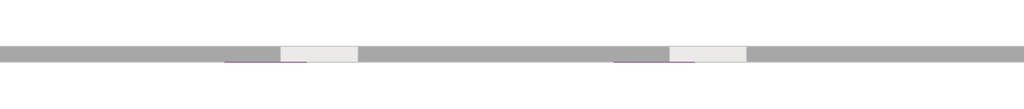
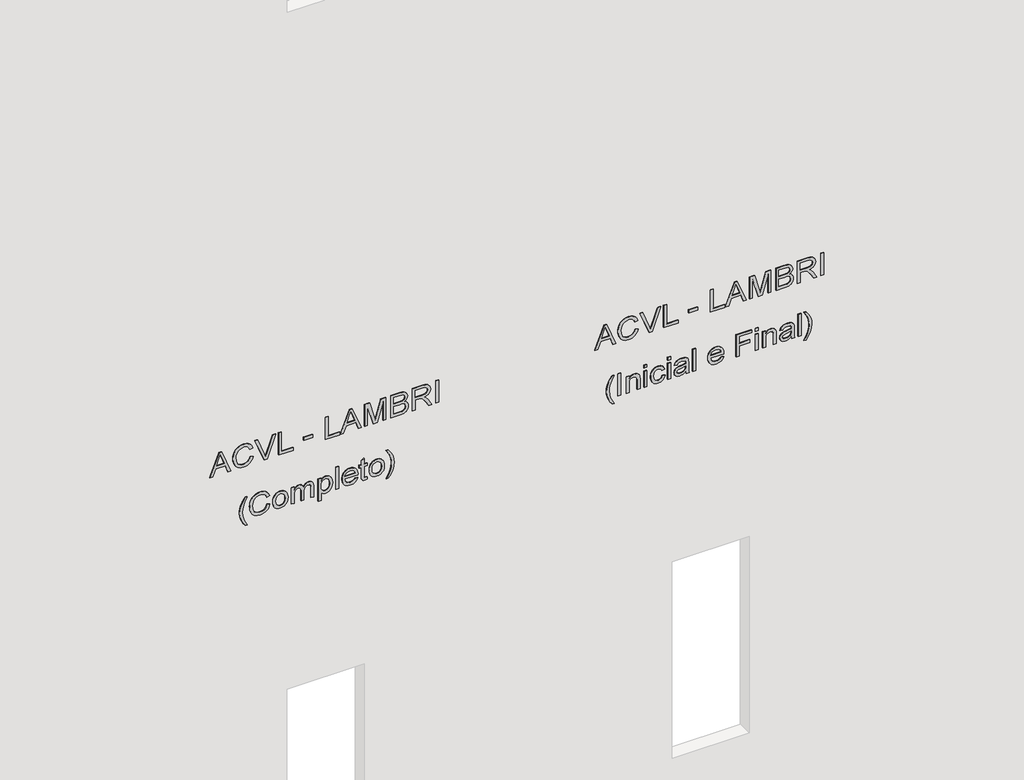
# One storey, part 2 of 11: 2 proxies.
"""IFC4 building model written with IfcOpenShell, lengths in millimetres."""

from ifc_helpers import new_model, si_unit, frame, origin, place, context, project, spatial, polyline, outline, extrude, element, save

model = new_model("IFC4")

# Units and contexts
model_context = context("Model", 3, world=origin())
ifc_project = project(units=[si_unit("LENGTHUNIT", "METRE", prefix="MILLI")], contexts=[model_context])

# Site, building, storey
site = spatial("IfcSite", under=ifc_project)
building = spatial("IfcBuilding", under=site)
storey = spatial("IfcBuildingStorey", under=building, Name="01 - Marelli - Planta Baixa - Painéis Lambri", Elevation=0.0)

# Proxies
placement = place(None, origin())
element("IfcBuildingElementProxy", 1, Name="300mm Arial", ObjectType="300mm Arial", at=placement, inside=storey, context=model_context, shape_type="SweptSolid", body=[
    extrude(outline(polyline([(5965.9244535, -2633.9601929), (5965.9244535, -2594.155361), (6060.1022443, -2559.7216063), (6060.1022443, -2435.5982211), (5965.9244535, -2401.0908899), (5965.9244535, -2361.2860581), (6267.293384, -2481.5834705), (6267.293384, -2513.6627805), (5965.9244535, -2633.9601929)]), holes=[polyline([(6097.7733606, -2545.8892432), (6178.3395176, -2516.3851072), (6229.6222677, -2497.6231255), (6171.8647944, -2476.506699), (6097.7733606, -2449.3570077), (6097.7733606, -2545.8892432)])]), frame((0.0, 8778.3159498, 0.0), z_axis=(0.0, 1.0, 0.0), x_axis=(0.0, 0.0, 1.0)), (0.0, 0.0, 1.0), 10.0),
    extrude(outline(polyline([(6073.0516905, -2109.1397386), (6040.7884396, -2121.3258297), (6017.5750857, -2141.108684), (6003.5587816, -2167.3110791), (5998.8866803, -2198.7557926), (6002.3171799, -2225.7307399), (6012.6086787, -2250.7375185), (6029.8347531, -2271.5964276), (6054.0689796, -2286.1277665), (6084.1617268, -2294.6534317), (6118.9633635, -2297.4953201), (6147.3822477, -2295.0948901), (6174.9550032, -2287.8936), (6199.3455795, -2274.7694099), (6218.2179258, -2254.6002795), (6230.3028494, -2228.0208053), (6234.3311572, -2195.6655838), (6230.6983225, -2167.5961876), (6219.7998184, -2144.7507157), (6200.9550632, -2126.9084389), (6173.4834752, -2113.8486281), (6182.4597959, -2076.1775118), (6220.278065, -2092.814975), (6235.6003501, -2104.6170893), (6248.5314022, -2118.7414586), (6258.7999084, -2134.9213686), (6266.1345557, -2152.8901049), (6272.0022735, -2194.1940559), (6267.4681279, -2232.0491132), (6253.8656912, -2266.5932325), (6231.526057, -2295.7202895), (6200.7803193, -2317.3241596), (6162.8332915, -2330.7058672), (6118.8897871, -2335.1664364), (6077.2271512, -2331.220902), (6038.3236302, -2319.3842988), (6005.2326447, -2299.9969177), (5981.0076153, -2273.3990494), (5966.1635768, -2238.6985802), (5961.215564, -2195.0033962), (5962.8503396, -2172.5809886), (5967.7546665, -2151.9612028), (5975.9285445, -2133.1440388), (5987.3719739, -2116.1294965), (6001.9286046, -2101.2532683), (6019.4420868, -2088.8510465), (6039.9124206, -2078.9228312), (6063.3396059, -2071.4686223), (6073.0516905, -2109.1397386)])), frame((0.0, 8778.3159498, 0.0), z_axis=(0.0, 1.0, 0.0), x_axis=(0.0, 0.0, 1.0)), (0.0, 0.0, 1.0), 10.0),
    extrude(outline(polyline([(5965.9244535, -1930.6433945), (5965.9244535, -1891.7214794), (6267.293384, -1776.8687205), (6267.293384, -1817.1885872), (6050.1694304, -1897.6811677), (6001.2411251, -1913.7208227), (6050.1694304, -1929.9812069), (6267.293384, -2010.2530583), (6267.293384, -2050.5729249), (5965.9244535, -1930.6433945)])), frame((0.0, 8778.3159498, 0.0), z_axis=(0.0, 1.0, 0.0), x_axis=(0.0, 0.0, 1.0)), (0.0, 0.0, 1.0), 10.0),
    extrude(outline(polyline([(5965.9244535, -1741.8463546), (5965.9244535, -1553.4907731), (6003.5955698, -1553.4907731), (6003.5955698, -1704.1752383), (6267.293384, -1704.1752383), (6267.293384, -1741.8463546), (5965.9244535, -1741.8463546)])), frame((0.0, 8778.3159498, 0.0), z_axis=(0.0, 1.0, 0.0), x_axis=(0.0, 0.0, 1.0)), (0.0, 0.0, 1.0), 10.0),
    extrude(outline(polyline([(-1299.210738, 8778.3159498), (-1416.9329765, 8778.3159498), (-1416.9329765, 8788.3159498), (-1299.210738, 8788.3159498), (-1299.210738, 8778.3159498)])), frame((0.0, 0.0, 6055.3933548), z_axis=(0.0, 0.0, 1.0), x_axis=(1.0, 0.0, 0.0)), (0.0, 0.0, 1.0), 37.6711163),
    extrude(outline(polyline([(5965.9244535, -1134.3996042), (5965.9244535, -946.0440226), (6003.5955698, -946.0440226), (6003.5955698, -1096.7284878), (6267.293384, -1096.7284878), (6267.293384, -1134.3996042), (5965.9244535, -1134.3996042)])), frame((0.0, 8778.3159498, 0.0), z_axis=(0.0, 1.0, 0.0), x_axis=(0.0, 0.0, 1.0)), (0.0, 0.0, 1.0), 10.0),
    extrude(outline(polyline([(5965.9244535, -938.7599591), (5965.9244535, -898.9551272), (6060.1022443, -864.5213725), (6060.1022443, -740.3979873), (5965.9244535, -705.8906562), (5965.9244535, -666.0858243), (6267.293384, -786.3832367), (6267.293384, -818.4625467), (5965.9244535, -938.7599591)]), holes=[polyline([(6097.7733606, -850.6890095), (6178.3395176, -821.1848735), (6229.6222677, -802.4228917), (6171.8647944, -781.3064652), (6097.7733606, -754.1567739), (6097.7733606, -850.6890095)])]), frame((0.0, 8778.3159498, 0.0), z_axis=(0.0, 1.0, 0.0), x_axis=(0.0, 0.0, 1.0)), (0.0, 0.0, 1.0), 10.0),
    extrude(outline(polyline([(5965.9244535, -625.839534), (5965.9244535, -588.1684177), (6229.6222677, -588.1684177), (5965.9244535, -512.4583031), (5965.9244535, -461.3962822), (6229.6222677, -385.6861676), (5965.9244535, -385.6861676), (5965.9244535, -348.0150513), (6267.293384, -348.0150513), (6267.293384, -412.8358588), (6058.5571399, -473.4628116), (6010.5117514, -486.9272926), (6054.87832, -499.3617041), (6267.293384, -561.0187265), (6267.293384, -625.839534), (5965.9244535, -625.839534)])), frame((0.0, 8778.3159498, 0.0), z_axis=(0.0, 1.0, 0.0), x_axis=(0.0, 0.0, 1.0)), (0.0, 0.0, 1.0), 10.0),
    extrude(outline(polyline([(5965.9244535, -282.0905977), (5965.9244535, -167.9736028), (5971.1115897, -119.6706969), (5977.5311305, -101.635282), (5986.4154807, -86.8924111), (5998.6843452, -74.8534728), (6015.2574291, -64.929856), (6034.7459778, -58.2803889), (6055.7612368, -56.0638999), (6080.9795475, -59.3104585), (6102.6294029, -69.0501343), (6119.5887629, -84.8230749), (6130.7355874, -106.1694276), (6142.4802201, -88.2995597), (6157.407032, -75.5984338), (6174.4675596, -68.0108677), (6192.613339, -65.481679), (6212.3318139, -68.4891143), (6231.1673721, -77.5114202), (6247.1794359, -91.8404239), (6258.4274279, -110.7679526), (6265.076895, -135.4620315), (6267.293384, -167.090686), (6267.293384, -282.0905977), (5965.9244535, -282.0905977)]), holes=[polyline([(6144.862256, -244.4194814), (6229.6222677, -244.4194814), (6229.6222677, -180.8494727), (6225.6859303, -132.4362021), (6220.084927, -119.9466084), (6211.1545915, -110.7311644), (6199.7134615, -105.0473875), (6186.5800742, -103.1527953), (6173.0512139, -105.1853433), (6162.0423452, -111.2829874), (6153.6822268, -121.3905452), (6148.0996175, -135.4528345), (6144.862256, -175.6255483), (6144.862256, -244.4194814)]), polyline([(6003.5955698, -244.4194814), (6107.1911397, -244.4194814), (6107.1911397, -170.8430824), (6105.9311439, -144.0152879), (6102.1511563, -124.30601), (6095.262566, -110.3908735), (6084.6767616, -100.9455033), (6071.1387042, -95.537638), (6055.3933548, -93.7350162), (6041.8369032, -95.2709235), (6030.0094971, -99.8786455), (6013.2708663, -115.5504185), (6005.0670978, -139.2052308), (6003.5955698, -167.1642624), (6003.5955698, -244.4194814)])]), frame((0.0, 8778.3159498, 0.0), z_axis=(0.0, 1.0, 0.0), x_axis=(0.0, 0.0, 1.0)), (0.0, 0.0, 1.0), 10.0),
    extrude(outline(polyline([(5965.9244535, -4.266115), (5965.9244535, 33.4050013), (6097.7733606, 33.4050013), (6097.7733606, 78.8752159), (6096.4489854, 100.7274065), (6089.2752865, 118.6432596), (6069.7407526, 138.5456756), (6028.3908163, 166.8725892), (5965.9244535, 206.0888099), (5965.9244535, 249.8667673), (6047.5942565, 199.6140868), (6086.3690188, 169.0798812), (6102.4822501, 147.669149), (6112.4702463, 184.7792453), (6120.4854753, 199.161132), (6130.5148582, 210.7609112), (6155.1261637, 226.0739993), (6184.8142407, 231.1783619), (6208.6805851, 228.0973502), (6230.3948199, 218.8543151), (6247.9060028, 204.451735), (6259.1631919, 185.8920883), (6265.260836, 160.4990336), (6267.293384, 125.5962293), (6267.293384, -4.266115), (5965.9244535, -4.266115)]), holes=[polyline([(6135.4444769, 33.4050013), (6229.6222677, 33.4050013), (6229.6222677, 127.2149101), (6226.366512, 157.0225488), (6216.599245, 177.5779552), (6201.7919947, 189.524923), (6183.4162891, 193.5072456), (6170.1081579, 191.4195153), (6157.8484904, 185.1563243), (6147.7133415, 174.8740226), (6140.7787658, 160.7289599), (6136.7780491, 141.939387), (6135.4444769, 117.7235546), (6135.4444769, 33.4050013)])]), frame((0.0, 8778.3159498, 0.0), z_axis=(0.0, 1.0, 0.0), x_axis=(0.0, 0.0, 1.0)), (0.0, 0.0, 1.0), 10.0),
    extrude(outline(polyline([(339.4828213, 8778.3159498), (301.811705, 8778.3159498), (301.811705, 8788.3159498), (339.4828213, 8788.3159498), (339.4828213, 8778.3159498)])), frame((0.0, 0.0, 5965.9244535), z_axis=(0.0, 0.0, 1.0), x_axis=(1.0, 0.0, 0.0)), (0.0, 0.0, 1.0), 301.3689304),
    extrude(outline(polyline([(5149.3155348, -2175.0641921), (5149.3155348, -2146.8108549), (5197.5540614, -2175.6528033), (5245.8109821, -2196.254195), (5294.0862969, -2208.6150301), (5342.3800058, -2212.7353084), (5380.2534572, -2210.3624695), (5417.9429677, -2203.2439529), (5475.7740173, -2182.05395), (5535.4444769, -2146.8108549), (5535.4444769, -2175.0641921), (5484.934279, -2209.7554643), (5434.2033518, -2234.0724641), (5389.4137189, -2246.3229346), (5342.600735, -2250.4064247), (5289.2210575, -2244.9433771), (5237.68079, -2228.5542342), (5190.2791949, -2204.2556284), (5149.3155348, -2175.0641921)])), frame((0.0, 8778.3159498, 0.0), z_axis=(0.0, 1.0, 0.0), x_axis=(0.0, 0.0, 1.0)), (0.0, 0.0, 1.0), 10.0),
    extrude(outline(polyline([(5341.2027835, -1892.5308198), (5308.9395325, -1904.7169109), (5285.7261786, -1924.4997652), (5271.7098746, -1950.7021603), (5267.0377732, -1982.1468738), (5270.4682728, -2009.1218211), (5280.7597717, -2034.1285998), (5297.9858461, -2054.9875089), (5322.2200725, -2069.5188477), (5352.3128197, -2078.0445129), (5387.1144565, -2080.8864013), (5415.5333406, -2078.4859713), (5443.1060961, -2071.2846813), (5467.4966724, -2058.1604911), (5486.3690188, -2037.9913607), (5498.4539423, -2011.4118866), (5502.4822501, -1979.0566651), (5498.8494154, -1950.9872688), (5487.9509113, -1928.1417969), (5469.1061561, -1910.2995202), (5441.6345681, -1897.2397094), (5450.6108888, -1859.568593), (5488.4291579, -1876.2060563), (5503.751443, -1888.0081705), (5516.6824952, -1902.1325399), (5526.9510013, -1918.3124499), (5534.2856486, -1936.2811861), (5540.1533665, -1977.5851371), (5535.6192209, -2015.4401944), (5522.0167841, -2049.9843138), (5499.6771499, -2079.1113707), (5468.9314122, -2100.7152409), (5430.9843844, -2114.0969485), (5387.0408801, -2118.5575177), (5345.3782441, -2114.6119833), (5306.4747231, -2102.7753801), (5273.3837376, -2083.3879989), (5249.1587083, -2056.7901307), (5234.3146698, -2022.0896615), (5229.3666569, -1978.3944775), (5231.0014325, -1955.9720699), (5235.9057594, -1935.3522841), (5244.0796375, -1916.53512), (5255.5230668, -1899.5205777), (5270.0796975, -1884.6443495), (5287.5931797, -1872.2421278), (5308.0635135, -1862.3139124), (5331.4906988, -1854.8597035), (5341.2027835, -1892.5308198)])), frame((0.0, 8778.3159498, 0.0), z_axis=(0.0, 1.0, 0.0), x_axis=(0.0, 0.0, 1.0)), (0.0, 0.0, 1.0), 10.0),
    extrude(outline(polyline([(5344.7344506, -1817.1885872), (5318.4124939, -1815.4802352), (5295.3646869, -1810.3551791), (5275.5910296, -1801.8134191), (5259.0915221, -1789.854955), (5246.0868936, -1775.1281788), (5236.7978732, -1758.2814827), (5231.224461, -1739.3148666), (5229.3666569, -1718.2283305), (5232.7419742, -1691.6396593), (5242.8679261, -1667.2030978), (5259.1007192, -1646.6292972), (5280.7965599, -1631.6289088), (5309.767267, -1622.4686472), (5347.8246594, -1619.4152266), (5372.7049786, -1621.1419727), (5394.7388108, -1626.3222111), (5413.9261561, -1634.9559416), (5430.2670145, -1647.0431644), (5443.3199275, -1661.852714), (5452.6434368, -1678.6534249), (5458.2375424, -1697.445297), (5460.1022443, -1718.2283305), (5458.5709355, -1737.0546916), (5453.9770091, -1754.3911306), (5446.3204651, -1770.2376476), (5435.6013034, -1784.5942424), (5418.830483, -1798.8542683), (5398.095734, -1809.040001), (5373.3970566, -1815.1514407), (5344.7344506, -1817.1885872)]), holes=[polyline([(5344.808027, -1779.5174709), (5378.8830968, -1775.1580693), (5403.1173232, -1762.0798643), (5417.6026768, -1742.3981776), (5422.431128, -1718.2283305), (5417.5842827, -1694.3068038), (5403.0437468, -1674.6343141), (5379.0854319, -1661.4733357), (5345.9852494, -1657.0863429), (5311.1468245, -1661.4457445), (5286.535519, -1674.5239495), (5271.9122097, -1694.168848), (5267.0377732, -1718.2283305), (5271.8846185, -1742.3981776), (5286.4251544, -1762.0798643), (5310.7145631, -1775.1580693), (5344.808027, -1779.5174709)])]), frame((0.0, 8778.3159498, 0.0), z_axis=(0.0, 1.0, 0.0), x_axis=(0.0, 0.0, 1.0)), (0.0, 0.0, 1.0), 10.0),
    extrude(outline(polyline([(5234.0755465, -1577.0352208), (5234.0755465, -1539.3641044), (5345.6909438, -1539.3641044), (5371.6082304, -1537.9293647), (5390.6461236, -1533.6251453), (5404.368122, -1526.1203526), (5414.3377241, -1515.0838928), (5420.407777, -1501.7113822), (5422.431128, -1487.1984375), (5419.3961015, -1470.1195159), (5410.2910222, -1458.6140065), (5395.0974958, -1452.074904), (5373.7971282, -1449.8952032), (5234.0755465, -1449.8952032), (5234.0755465, -1412.2240869), (5359.008272, -1412.2240869), (5387.7214617, -1408.5360699), (5407.3479662, -1397.4720189), (5418.6603375, -1380.8345557), (5422.431128, -1360.426302), (5420.9596, -1348.8656103), (5416.5450161, -1338.9052053), (5409.7300021, -1331.1612893), (5401.0571841, -1326.2500646), (5369.6032735, -1322.7551857), (5234.0755465, -1322.7551857), (5234.0755465, -1285.0840694), (5385.7900813, -1285.0840694), (5418.7615051, -1289.3974858), (5441.8920855, -1302.337735), (5455.5497046, -1323.2794175), (5460.1022443, -1351.5971341), (5457.366122, -1371.122471), (5449.1577549, -1388.7164274), (5435.4771432, -1404.3790034), (5416.3242869, -1418.1101988), (5434.7643719, -1426.3139673), (5448.5875379, -1438.8587434), (5457.2235677, -1455.6525564), (5460.1022443, -1476.6034361), (5457.27875, -1496.1563641), (5448.808267, -1513.465212), (5435.702471, -1528.033339), (5418.9730372, -1539.3641044), (5455.3933548, -1539.3641044), (5455.3933548, -1577.0352208), (5234.0755465, -1577.0352208)])), frame((0.0, 8778.3159498, 0.0), z_axis=(0.0, 1.0, 0.0), x_axis=(0.0, 0.0, 1.0)), (0.0, 0.0, 1.0), 10.0),
    extrude(outline(polyline([(5149.3155348, -1228.5773949), (5149.3155348, -1190.9062786), (5263.5061061, -1190.9062786), (5249.9956398, -1180.2652919), (5239.0419534, -1167.0307371), (5231.785481, -1151.5704963), (5229.3666569, -1134.2524514), (5232.9810975, -1109.8342839), (5243.8244193, -1086.611733), (5261.4459669, -1066.6725288), (5285.3950848, -1052.1044018), (5314.2094421, -1043.1924605), (5346.4267078, -1040.2218134), (5376.7217901, -1042.8521697), (5404.4784866, -1050.7432385), (5427.9861461, -1063.8030493), (5445.5341173, -1081.9396316), (5456.4602125, -1104.2148865), (5460.1022443, -1129.6907146), (5457.4994792, -1148.8205784), (5449.6911838, -1164.8602334), (5436.6773583, -1178.61902), (5418.4580024, -1190.9062786), (5455.3933548, -1190.9062786), (5455.3933548, -1228.5773949), (5149.3155348, -1228.5773949)]), holes=[polyline([(5342.968617, -1190.9062786), (5377.1356573, -1186.556074), (5402.0872537, -1173.5054602), (5417.3451594, -1154.8078578), (5422.431128, -1133.5166874), (5417.6486621, -1112.3082903), (5403.3012642, -1094.3004667), (5379.3521464, -1081.9948139), (5345.7645202, -1077.8929297), (5310.7237602, -1082.0959815), (5286.2412134, -1094.7051369), (5271.8386333, -1113.2004042), (5267.0377732, -1135.0617917), (5271.6730864, -1156.5736914), (5285.5790258, -1174.6091062), (5309.1970499, -1186.8319855), (5342.968617, -1190.9062786)])]), frame((0.0, 8778.3159498, 0.0), z_axis=(0.0, 1.0, 0.0), x_axis=(0.0, 0.0, 1.0)), (0.0, 0.0, 1.0), 10.0),
    extrude(outline(polyline([(-960.1706912, 8778.3159498), (-997.8418075, 8778.3159498), (-997.8418075, 8788.3159498), (-960.1706912, 8788.3159498), (-960.1706912, 8778.3159498)])), frame((0.0, 0.0, 5234.0755465), z_axis=(0.0, 0.0, 1.0), x_axis=(1.0, 0.0, 0.0)), (0.0, 0.0, 1.0), 301.3689304),
    extrude(outline(polyline([(5300.0, -748.7121204), (5285.1191733, -759.2703337), (5274.9104479, -772.9923321), (5269.0059419, -789.8781157), (5267.0377732, -809.9276844), (5271.2868103, -836.589932), (5284.0339214, -858.4513196), (5304.7640718, -873.5988607), (5332.9622268, -880.1195691), (5332.9622268, -710.8202749), (5343.1157698, -710.5995457), (5369.3687487, -712.3860726), (5392.5039277, -717.7456535), (5412.5213067, -726.6782882), (5429.4208859, -739.1839767), (5442.8439802, -754.5039626), (5452.4319047, -771.8794891), (5458.1846594, -791.3105562), (5460.1022443, -812.797164), (5458.1800609, -834.9988424), (5452.4135106, -855.030017), (5442.8025935, -872.8906879), (5429.3473095, -888.580855), (5412.4109422, -901.3601558), (5392.3567749, -910.4882278), (5369.1848077, -915.965071), (5342.8950406, -917.7906854), (5317.467497, -915.9834651), (5295.0427901, -910.5618042), (5275.62092, -901.5257027), (5259.2018867, -888.8751606), (5246.1489737, -873.1436068), (5236.8254644, -854.8644701), (5231.2313588, -834.0377507), (5229.3666569, -810.6634484), (5233.6892704, -775.006486), (5246.6571107, -746.3208874), (5267.4608375, -725.0848993), (5295.2911105, -711.7767681), (5300.0, -748.7121204)]), holes=[polyline([(5370.6333431, -880.1195691), (5391.8693312, -873.9299545), (5408.3412476, -859.3342364), (5418.9086579, -838.3373715), (5422.431128, -812.9443168), (5418.0165441, -785.3163789), (5404.7727922, -763.3538238), (5390.535759, -753.3658277), (5370.6333431, -748.270662), (5370.6333431, -880.1195691)])]), frame((0.0, 8778.3159498, 0.0), z_axis=(0.0, 1.0, 0.0), x_axis=(0.0, 0.0, 1.0)), (0.0, 0.0, 1.0), 10.0),
    extrude(outline(polyline([(5265.4926689, -592.8773073), (5267.0377732, -609.2848442), (5269.576159, -622.1239259), (5276.4555523, -628.5618608), (5295.8797217, -630.5484236), (5417.7222385, -630.5484236), (5417.7222385, -592.8773073), (5455.3933548, -592.8773073), (5455.3933548, -630.5484236), (5531.3241986, -630.5484236), (5509.1777025, -668.2195399), (5455.3933548, -668.2195399), (5455.3933548, -696.4728771), (5417.7222385, -696.4728771), (5417.7222385, -668.2195399), (5294.7760757, -668.2195399), (5267.7919313, -667.0791057), (5252.0281878, -663.6578031), (5242.849532, -657.4405974), (5235.6206508, -647.9124537), (5230.9301554, -634.4295786), (5229.3666569, -616.3481785), (5232.9719005, -588.1684177), (5265.4926689, -592.8773073)])), frame((0.0, 8778.3159498, 0.0), z_axis=(0.0, 1.0, 0.0), x_axis=(0.0, 0.0, 1.0)), (0.0, 0.0, 1.0), 10.0),
    extrude(outline(polyline([(5344.7344506, -564.62397), (5318.4124939, -562.915618), (5295.3646869, -557.790562), (5275.5910296, -549.2488019), (5259.0915221, -537.2903378), (5246.0868936, -522.5635617), (5236.7978732, -505.7168655), (5231.224461, -486.7502494), (5229.3666569, -465.6637133), (5232.7419742, -439.0750421), (5242.8679261, -414.6384806), (5259.1007192, -394.06468), (5280.7965599, -379.0642917), (5309.767267, -369.90403), (5347.8246594, -366.8506094), (5372.7049786, -368.5773555), (5394.7388108, -373.7575939), (5413.9261561, -382.3913245), (5430.2670145, -394.4785473), (5443.3199275, -409.2880968), (5452.6434368, -426.0888077), (5458.2375424, -444.8806799), (5460.1022443, -465.6637133), (5458.5709355, -484.4900744), (5453.9770091, -501.8265134), (5446.3204651, -517.6730304), (5435.6013034, -532.0296253), (5418.830483, -546.2896511), (5398.095734, -556.4753838), (5373.3970566, -562.5868235), (5344.7344506, -564.62397)]), holes=[polyline([(5344.808027, -526.9528537), (5378.8830968, -522.5934521), (5403.1173232, -509.5152471), (5417.6026768, -489.8335604), (5422.431128, -465.6637133), (5417.5842827, -441.7421866), (5403.0437468, -422.0696969), (5379.0854319, -408.9087185), (5345.9852494, -404.5217257), (5311.1468245, -408.8811274), (5286.535519, -421.9593323), (5271.9122097, -441.6042308), (5267.0377732, -465.6637133), (5271.8846185, -489.8335604), (5286.4251544, -509.5152471), (5310.7145631, -522.5934521), (5344.808027, -526.9528537)])]), frame((0.0, 8778.3159498, 0.0), z_axis=(0.0, 1.0, 0.0), x_axis=(0.0, 0.0, 1.0)), (0.0, 0.0, 1.0), 10.0),
    extrude(outline(polyline([(5149.3155348, -315.0528245), (5190.2791949, -285.9993439), (5237.68079, -261.673147), (5289.2210575, -245.2012307), (5342.600735, -239.7105919), (5389.4137189, -243.794082), (5434.2033518, -256.0445525), (5484.934279, -280.3615524), (5535.4444769, -315.0528245), (5535.4444769, -343.3061617), (5475.1854061, -307.8423374), (5446.8400984, -295.8677784), (5417.2807801, -286.8730637), (5379.9775458, -279.7545471), (5342.3800058, -277.3817082), (5294.0862969, -281.5019865), (5245.8109821, -293.8628216), (5197.5540614, -314.4642133), (5149.3155348, -343.3061617), (5149.3155348, -315.0528245)])), frame((0.0, 8778.3159498, 0.0), z_axis=(0.0, 1.0, 0.0), x_axis=(0.0, 0.0, 1.0)), (0.0, 0.0, 1.0), 10.0),
])
element("IfcBuildingElementProxy", 2, Name="300mm Arial", ObjectType="300mm Arial", at=placement, inside=storey, context=model_context, shape_type="SweptSolid", body=[
    extrude(outline(polyline([(5965.9244535, 2366.0398071), (5965.9244535, 2405.844639), (6060.1022443, 2440.2783937), (6060.1022443, 2564.4017789), (5965.9244535, 2598.9091101), (5965.9244535, 2638.7139419), (6267.293384, 2518.4165295), (6267.293384, 2486.3372195), (5965.9244535, 2366.0398071)]), holes=[polyline([(6097.7733606, 2454.1107568), (6178.3395176, 2483.6148928), (6229.6222677, 2502.3768745), (6171.8647944, 2523.493301), (6097.7733606, 2550.6429923), (6097.7733606, 2454.1107568)])]), frame((0.0, 8778.3159498, 0.0), z_axis=(0.0, 1.0, 0.0), x_axis=(0.0, 0.0, 1.0)), (0.0, 0.0, 1.0), 10.0),
    extrude(outline(polyline([(6073.0516905, 2890.8602614), (6040.7884396, 2878.6741703), (6017.5750857, 2858.891316), (6003.5587816, 2832.6889209), (5998.8866803, 2801.2442074), (6002.3171799, 2774.2692601), (6012.6086787, 2749.2624815), (6029.8347531, 2728.4035724), (6054.0689796, 2713.8722335), (6084.1617268, 2705.3465683), (6118.9633635, 2702.5046799), (6147.3822477, 2704.9051099), (6174.9550032, 2712.1064), (6199.3455795, 2725.2305901), (6218.2179258, 2745.3997205), (6230.3028494, 2771.9791947), (6234.3311572, 2804.3344162), (6230.6983225, 2832.4038124), (6219.7998184, 2855.2492843), (6200.9550632, 2873.0915611), (6173.4834752, 2886.1513719), (6182.4597959, 2923.8224882), (6220.278065, 2907.185025), (6235.6003501, 2895.3829107), (6248.5314022, 2881.2585414), (6258.7999084, 2865.0786314), (6266.1345557, 2847.1098951), (6272.0022735, 2805.8059441), (6267.4681279, 2767.9508868), (6253.8656912, 2733.4067675), (6231.526057, 2704.2797105), (6200.7803193, 2682.6758404), (6162.8332915, 2669.2941328), (6118.8897871, 2664.8335636), (6077.2271512, 2668.779098), (6038.3236302, 2680.6157012), (6005.2326447, 2700.0030823), (5981.0076153, 2726.6009506), (5966.1635768, 2761.3014198), (5961.215564, 2804.9966038), (5962.8503396, 2827.4190114), (5967.7546665, 2848.0387972), (5975.9285445, 2866.8559612), (5987.3719739, 2883.8705035), (6001.9286046, 2898.7467317), (6019.4420868, 2911.1489535), (6039.9124206, 2921.0771688), (6063.3396059, 2928.5313777), (6073.0516905, 2890.8602614)])), frame((0.0, 8778.3159498, 0.0), z_axis=(0.0, 1.0, 0.0), x_axis=(0.0, 0.0, 1.0)), (0.0, 0.0, 1.0), 10.0),
    extrude(outline(polyline([(5965.9244535, 3069.3566055), (5965.9244535, 3108.2785206), (6267.293384, 3223.1312795), (6267.293384, 3182.8114128), (6050.1694304, 3102.3188323), (6001.2411251, 3086.2791773), (6050.1694304, 3070.0187931), (6267.293384, 2989.7469417), (6267.293384, 2949.4270751), (5965.9244535, 3069.3566055)])), frame((0.0, 8778.3159498, 0.0), z_axis=(0.0, 1.0, 0.0), x_axis=(0.0, 0.0, 1.0)), (0.0, 0.0, 1.0), 10.0),
    extrude(outline(polyline([(5965.9244535, 3258.1536454), (5965.9244535, 3446.5092269), (6003.5955698, 3446.5092269), (6003.5955698, 3295.8247617), (6267.293384, 3295.8247617), (6267.293384, 3258.1536454), (5965.9244535, 3258.1536454)])), frame((0.0, 8778.3159498, 0.0), z_axis=(0.0, 1.0, 0.0), x_axis=(0.0, 0.0, 1.0)), (0.0, 0.0, 1.0), 10.0),
    extrude(outline(polyline([(3700.789262, 8778.3159498), (3583.0670235, 8778.3159498), (3583.0670235, 8788.3159498), (3700.789262, 8788.3159498), (3700.789262, 8778.3159498)])), frame((0.0, 0.0, 6055.3933548), z_axis=(0.0, 0.0, 1.0), x_axis=(1.0, 0.0, 0.0)), (0.0, 0.0, 1.0), 37.6711163),
    extrude(outline(polyline([(5965.9244535, 3865.6003958), (5965.9244535, 4053.9559774), (6003.5955698, 4053.9559774), (6003.5955698, 3903.2715122), (6267.293384, 3903.2715122), (6267.293384, 3865.6003958), (5965.9244535, 3865.6003958)])), frame((0.0, 8778.3159498, 0.0), z_axis=(0.0, 1.0, 0.0), x_axis=(0.0, 0.0, 1.0)), (0.0, 0.0, 1.0), 10.0),
    extrude(outline(polyline([(5965.9244535, 4061.2400409), (5965.9244535, 4101.0448728), (6060.1022443, 4135.4786275), (6060.1022443, 4259.6020127), (5965.9244535, 4294.1093438), (5965.9244535, 4333.9141757), (6267.293384, 4213.6167633), (6267.293384, 4181.5374533), (5965.9244535, 4061.2400409)]), holes=[polyline([(6097.7733606, 4149.3109905), (6178.3395176, 4178.8151265), (6229.6222677, 4197.5771083), (6171.8647944, 4218.6935348), (6097.7733606, 4245.8432261), (6097.7733606, 4149.3109905)])]), frame((0.0, 8778.3159498, 0.0), z_axis=(0.0, 1.0, 0.0), x_axis=(0.0, 0.0, 1.0)), (0.0, 0.0, 1.0), 10.0),
    extrude(outline(polyline([(5965.9244535, 4374.160466), (5965.9244535, 4411.8315823), (6229.6222677, 4411.8315823), (5965.9244535, 4487.5416969), (5965.9244535, 4538.6037178), (6229.6222677, 4614.3138324), (5965.9244535, 4614.3138324), (5965.9244535, 4651.9849487), (6267.293384, 4651.9849487), (6267.293384, 4587.1641412), (6058.5571399, 4526.5371884), (6010.5117514, 4513.0727074), (6054.87832, 4500.6382959), (6267.293384, 4438.9812735), (6267.293384, 4374.160466), (5965.9244535, 4374.160466)])), frame((0.0, 8778.3159498, 0.0), z_axis=(0.0, 1.0, 0.0), x_axis=(0.0, 0.0, 1.0)), (0.0, 0.0, 1.0), 10.0),
    extrude(outline(polyline([(5965.9244535, 4717.9094023), (5965.9244535, 4832.0263972), (5971.1115897, 4880.3293031), (5977.5311305, 4898.364718), (5986.4154807, 4913.1075889), (5998.6843452, 4925.1465272), (6015.2574291, 4935.070144), (6034.7459778, 4941.7196111), (6055.7612368, 4943.9361001), (6080.9795475, 4940.6895415), (6102.6294029, 4930.9498657), (6119.5887629, 4915.1769251), (6130.7355874, 4893.8305724), (6142.4802201, 4911.7004403), (6157.407032, 4924.4015662), (6174.4675596, 4931.9891323), (6192.613339, 4934.518321), (6212.3318139, 4931.5108857), (6231.1673721, 4922.4885798), (6247.1794359, 4908.1595761), (6258.4274279, 4889.2320474), (6265.076895, 4864.5379685), (6267.293384, 4832.909314), (6267.293384, 4717.9094023), (5965.9244535, 4717.9094023)]), holes=[polyline([(6144.862256, 4755.5805186), (6229.6222677, 4755.5805186), (6229.6222677, 4819.1505273), (6225.6859303, 4867.5637979), (6220.084927, 4880.0533916), (6211.1545915, 4889.2688356), (6199.7134615, 4894.9526125), (6186.5800742, 4896.8472047), (6173.0512139, 4894.8146567), (6162.0423452, 4888.7170126), (6153.6822268, 4878.6094548), (6148.0996175, 4864.5471655), (6144.862256, 4824.3744517), (6144.862256, 4755.5805186)]), polyline([(6003.5955698, 4755.5805186), (6107.1911397, 4755.5805186), (6107.1911397, 4829.1569176), (6105.9311439, 4855.9847121), (6102.1511563, 4875.69399), (6095.262566, 4889.6091265), (6084.6767616, 4899.0544967), (6071.1387042, 4904.462362), (6055.3933548, 4906.2649838), (6041.8369032, 4904.7290765), (6030.0094971, 4900.1213545), (6013.2708663, 4884.4495815), (6005.0670978, 4860.7947692), (6003.5955698, 4832.8357376), (6003.5955698, 4755.5805186)])]), frame((0.0, 8778.3159498, 0.0), z_axis=(0.0, 1.0, 0.0), x_axis=(0.0, 0.0, 1.0)), (0.0, 0.0, 1.0), 10.0),
    extrude(outline(polyline([(5965.9244535, 4995.733885), (5965.9244535, 5033.4050013), (6097.7733606, 5033.4050013), (6097.7733606, 5078.8752159), (6096.4489854, 5100.7274065), (6089.2752865, 5118.6432596), (6069.7407526, 5138.5456756), (6028.3908163, 5166.8725892), (5965.9244535, 5206.0888099), (5965.9244535, 5249.8667673), (6047.5942565, 5199.6140868), (6086.3690188, 5169.0798812), (6102.4822501, 5147.669149), (6112.4702463, 5184.7792453), (6120.4854753, 5199.161132), (6130.5148582, 5210.7609112), (6155.1261637, 5226.0739993), (6184.8142407, 5231.1783619), (6208.6805851, 5228.0973502), (6230.3948199, 5218.8543151), (6247.9060028, 5204.451735), (6259.1631919, 5185.8920883), (6265.260836, 5160.4990336), (6267.293384, 5125.5962293), (6267.293384, 4995.733885), (5965.9244535, 4995.733885)]), holes=[polyline([(6135.4444769, 5033.4050013), (6229.6222677, 5033.4050013), (6229.6222677, 5127.2149101), (6226.366512, 5157.0225488), (6216.599245, 5177.5779552), (6201.7919947, 5189.524923), (6183.4162891, 5193.5072456), (6170.1081579, 5191.4195153), (6157.8484904, 5185.1563243), (6147.7133415, 5174.8740226), (6140.7787658, 5160.7289599), (6136.7780491, 5141.939387), (6135.4444769, 5117.7235546), (6135.4444769, 5033.4050013)])]), frame((0.0, 8778.3159498, 0.0), z_axis=(0.0, 1.0, 0.0), x_axis=(0.0, 0.0, 1.0)), (0.0, 0.0, 1.0), 10.0),
    extrude(outline(polyline([(5339.4828213, 8778.3159498), (5301.811705, 8778.3159498), (5301.811705, 8788.3159498), (5339.4828213, 8788.3159498), (5339.4828213, 8778.3159498)])), frame((0.0, 0.0, 5965.9244535), z_axis=(0.0, 0.0, 1.0), x_axis=(1.0, 0.0, 0.0)), (0.0, 0.0, 1.0), 301.3689304),
    extrude(outline(polyline([(5149.3155348, 2589.491331), (5149.3155348, 2617.7446682), (5197.5540614, 2588.9027198), (5245.8109821, 2568.3013281), (5294.0862969, 2555.940493), (5342.3800058, 2551.8202147), (5380.2534572, 2554.1930535), (5417.9429677, 2561.3115701), (5475.7740173, 2582.5015731), (5535.4444769, 2617.7446682), (5535.4444769, 2589.491331), (5484.934279, 2554.8000588), (5434.2033518, 2530.4830589), (5389.4137189, 2518.2325885), (5342.600735, 2514.1490984), (5289.2210575, 2519.612146), (5237.68079, 2536.0012889), (5190.2791949, 2560.2998947), (5149.3155348, 2589.491331)])), frame((0.0, 8778.3159498, 0.0), z_axis=(0.0, 1.0, 0.0), x_axis=(0.0, 0.0, 1.0)), (0.0, 0.0, 1.0), 10.0),
    extrude(outline(polyline([(2702.5046799, 8778.3159498), (2664.8335636, 8778.3159498), (2664.8335636, 8788.3159498), (2702.5046799, 8788.3159498), (2702.5046799, 8778.3159498)])), frame((0.0, 0.0, 5234.0755465), z_axis=(0.0, 0.0, 1.0), x_axis=(1.0, 0.0, 0.0)), (0.0, 0.0, 1.0), 301.3689304),
    extrude(outline(polyline([(5234.0755465, 2773.138023), (5234.0755465, 2810.8091393), (5351.5034793, 2810.8091393), (5386.2131456, 2815.1041616), (5398.5877762, 2820.4729394), (5407.6422718, 2827.9892284), (5418.7339139, 2846.7971955), (5422.431128, 2868.8609181), (5420.7848561, 2882.7576605), (5415.8460403, 2894.7230224), (5408.1481095, 2904.058028), (5398.2244927, 2910.0637016), (5364.8943839, 2914.4047091), (5234.0755465, 2914.4047091), (5234.0755465, 2952.0758254), (5369.9711555, 2952.0758254), (5406.391473, 2950.0892626), (5434.0929872, 2938.7952854), (5444.6328064, 2928.6969246), (5452.9285454, 2914.5150737), (5458.3088196, 2897.5097285), (5460.1022443, 2878.9408848), (5457.8765582, 2857.962414), (5451.1995, 2839.6142995), (5440.0710697, 2823.8965413), (5424.4912672, 2810.8091393), (5455.3933548, 2810.8091393), (5455.3933548, 2773.138023), (5234.0755465, 2773.138023)])), frame((0.0, 8778.3159498, 0.0), z_axis=(0.0, 1.0, 0.0), x_axis=(0.0, 0.0, 1.0)), (0.0, 0.0, 1.0), 10.0),
    extrude(outline(polyline([(3041.5447266, 8778.3159498), (3003.8736103, 8778.3159498), (3003.8736103, 8788.3159498), (3041.5447266, 8788.3159498), (3041.5447266, 8778.3159498)])), frame((0.0, 0.0, 5497.7733606), z_axis=(0.0, 0.0, 1.0), x_axis=(1.0, 0.0, 0.0)), (0.0, 0.0, 1.0), 37.6711163),
    extrude(outline(polyline([(3041.5447266, 8778.3159498), (3003.8736103, 8778.3159498), (3003.8736103, 8788.3159498), (3041.5447266, 8788.3159498), (3041.5447266, 8778.3159498)])), frame((0.0, 0.0, 5234.0755465), z_axis=(0.0, 0.0, 1.0), x_axis=(1.0, 0.0, 0.0)), (0.0, 0.0, 1.0), 221.3178083),
    extrude(outline(polyline([(5314.1266686, 3239.3180873), (5293.2493654, 3232.8893494), (5278.5892679, 3221.2550813), (5269.9256469, 3205.2614116), (5267.0377732, 3185.7544688), (5271.6638893, 3161.7225774), (5285.5422376, 3142.7490635), (5309.6477053, 3130.4158196), (5344.9551798, 3126.3047383), (5379.7936048, 3130.5077901), (5403.816299, 3143.1169455), (5417.7774208, 3162.4399473), (5422.431128, 3186.7845383), (5420.0674862, 3203.2748488), (5412.9765607, 3217.1348029), (5401.1951398, 3227.7757897), (5384.7600117, 3234.6091977), (5389.4689012, 3272.280314), (5419.4512838, 3262.0256034), (5441.7081445, 3243.7694594), (5455.5037194, 3218.3212224), (5460.1022443, 3186.4902327), (5456.7545181, 3159.8463792), (5446.7113397, 3135.2442708), (5429.9635118, 3114.6796673), (5406.5018376, 3100.1483285), (5377.448357, 3091.5122986), (5343.9251102, 3088.633622), (5317.8675687, 3090.3189814), (5295.024396, 3095.3750596), (5275.3955923, 3103.8018565), (5258.9811575, 3115.5993723), (5246.0248135, 3130.1743971), (5236.7702821, 3146.9337212), (5231.2175632, 3165.8773447), (5229.3666569, 3187.0052675), (5234.6733547, 3219.6364005), (5250.593448, 3246.7493036), (5275.9129264, 3266.4861726), (5309.4177791, 3276.9892036), (5314.1266686, 3239.3180873)])), frame((0.0, 8778.3159498, 0.0), z_axis=(0.0, 1.0, 0.0), x_axis=(0.0, 0.0, 1.0)), (0.0, 0.0, 1.0), 10.0),
    extrude(outline(polyline([(3347.6225466, 8778.3159498), (3309.9514303, 8778.3159498), (3309.9514303, 8788.3159498), (3347.6225466, 8788.3159498), (3347.6225466, 8778.3159498)])), frame((0.0, 0.0, 5497.7733606), z_axis=(0.0, 0.0, 1.0), x_axis=(1.0, 0.0, 0.0)), (0.0, 0.0, 1.0), 37.6711163),
    extrude(outline(polyline([(3347.6225466, 8778.3159498), (3309.9514303, 8778.3159498), (3309.9514303, 8788.3159498), (3347.6225466, 8788.3159498), (3347.6225466, 8778.3159498)])), frame((0.0, 0.0, 5234.0755465), z_axis=(0.0, 0.0, 1.0), x_axis=(1.0, 0.0, 0.0)), (0.0, 0.0, 1.0), 221.3178083),
    extrude(outline(polyline([(5262.3288837, 3545.3959072), (5234.0755465, 3554.8136863), (5234.0755465, 3592.4848026), (5265.7501862, 3584.9800099), (5331.1963932, 3583.0670235), (5378.0645594, 3583.0670235), (5411.0267861, 3581.2276136), (5425.1442577, 3576.6842709), (5436.5945848, 3569.6761189), (5445.856014, 3559.1087086), (5453.406792, 3543.8875911), (5458.4283812, 3523.7000666), (5460.1022443, 3498.2334355), (5458.207652, 3471.6815525), (5452.5238752, 3448.5325779), (5443.3452194, 3429.6050493), (5430.9659903, 3415.7175039), (5414.7791825, 3405.959434), (5394.1777908, 3399.4203316), (5389.4689012, 3437.0914479), (5405.1314772, 3444.5778465), (5415.1838527, 3455.2648184), (5420.6193092, 3470.9365914), (5422.431128, 3493.3773931), (5419.7088012, 3517.6208166), (5411.5418209, 3535.021635), (5400.5421493, 3542.8023392), (5383.7299421, 3545.3959072), (5375.3422326, 3545.175178), (5368.3524747, 3518.3565806), (5362.3927864, 3479.8393357), (5356.7274037, 3447.2449909), (5344.3665686, 3420.8678519), (5334.8752131, 3410.2636534), (5322.7351073, 3401.9219291), (5308.5532564, 3396.5140638), (5292.9366657, 3394.711442), (5267.6079903, 3399.4847109), (5247.2457219, 3413.8045176), (5233.8364232, 3437.0270685), (5229.3666569, 3468.5085703), (5231.224461, 3489.3766764), (5236.7978732, 3508.8652251), (5246.896234, 3527.3972806), (5262.3288837, 3545.3959072)]), holes=[polyline([(5337.6711163, 3545.3959072), (5327.0025384, 3545.175178), (5310.0799667, 3543.685256), (5297.8662844, 3539.2154897), (5286.0112871, 3529.1355231), (5276.0508821, 3514.6409724), (5269.2910505, 3496.7619075), (5267.0377732, 3476.5283977), (5269.0795183, 3457.4445192), (5275.2047535, 3443.6029592), (5284.3834093, 3435.1876585), (5295.5854161, 3432.3825583), (5310.0799667, 3437.5329063), (5320.0127805, 3452.2113979), (5326.1196217, 3484.6218016), (5337.6711163, 3545.3959072)])]), frame((0.0, 8778.3159498, 0.0), z_axis=(0.0, 1.0, 0.0), x_axis=(0.0, 0.0, 1.0)), (0.0, 0.0, 1.0), 10.0),
    extrude(outline(polyline([(3672.5359248, 8778.3159498), (3634.8648085, 8778.3159498), (3634.8648085, 8788.3159498), (3672.5359248, 8788.3159498), (3672.5359248, 8778.3159498)])), frame((0.0, 0.0, 5234.0755465), z_axis=(0.0, 0.0, 1.0), x_axis=(1.0, 0.0, 0.0)), (0.0, 0.0, 1.0), 301.3689304),
    extrude(outline(polyline([(5300.0, 4001.7167341), (5285.1191733, 3991.1585208), (5274.9104479, 3977.4365224), (5269.0059419, 3960.5507388), (5267.0377732, 3940.5011701), (5271.2868103, 3913.8389225), (5284.0339214, 3891.9775349), (5304.7640718, 3876.8299937), (5332.9622268, 3870.3092854), (5332.9622268, 4039.6085796), (5343.1157698, 4039.8293088), (5369.3687487, 4038.0427818), (5392.5039277, 4032.683201), (5412.5213067, 4023.7505663), (5429.4208859, 4011.2448777), (5442.8439802, 3995.9248919), (5452.4319047, 3978.5493654), (5458.1846594, 3959.1182983), (5460.1022443, 3937.6316905), (5458.1800609, 3915.4300121), (5452.4135106, 3895.3988375), (5442.8025935, 3877.5381666), (5429.3473095, 3861.8479995), (5412.4109422, 3849.0686987), (5392.3567749, 3839.9406267), (5369.1848077, 3834.4637835), (5342.8950406, 3832.6381691), (5317.467497, 3834.4453894), (5295.0427901, 3839.8670503), (5275.62092, 3848.9031518), (5259.2018867, 3861.5536939), (5246.1489737, 3877.2852477), (5236.8254644, 3895.5643844), (5231.2313588, 3916.3911038), (5229.3666569, 3939.7654061), (5233.6892704, 3975.4223685), (5246.6571107, 4004.107967), (5267.4608375, 4025.3439552), (5295.2911105, 4038.6520864), (5300.0, 4001.7167341)]), holes=[polyline([(5370.6333431, 3870.3092854), (5391.8693312, 3876.4989), (5408.3412476, 3891.0946181), (5418.9086579, 3912.091483), (5422.431128, 3937.4845377), (5418.0165441, 3965.1124755), (5404.7727922, 3987.0750307), (5390.535759, 3997.0630268), (5370.6333431, 4002.1581925), (5370.6333431, 3870.3092854)])]), frame((0.0, 8778.3159498, 0.0), z_axis=(0.0, 1.0, 0.0), x_axis=(0.0, 0.0, 1.0)), (0.0, 0.0, 1.0), 10.0),
    extrude(outline(polyline([(5234.0755465, 4199.9315531), (5234.0755465, 4237.6026694), (5370.6333431, 4237.6026694), (5370.6333431, 4378.8693555), (5408.3044594, 4378.8693555), (5408.3044594, 4237.6026694), (5497.7733606, 4237.6026694), (5497.7733606, 4402.4138032), (5535.4444769, 4402.4138032), (5535.4444769, 4199.9315531), (5234.0755465, 4199.9315531)])), frame((0.0, 8778.3159498, 0.0), z_axis=(0.0, 1.0, 0.0), x_axis=(0.0, 0.0, 1.0)), (0.0, 0.0, 1.0), 10.0),
    extrude(outline(polyline([(4487.1738149, 8778.3159498), (4449.5026986, 8778.3159498), (4449.5026986, 8788.3159498), (4487.1738149, 8788.3159498), (4487.1738149, 8778.3159498)])), frame((0.0, 0.0, 5497.7733606), z_axis=(0.0, 0.0, 1.0), x_axis=(1.0, 0.0, 0.0)), (0.0, 0.0, 1.0), 37.6711163),
    extrude(outline(polyline([(4487.1738149, 8778.3159498), (4449.5026986, 8778.3159498), (4449.5026986, 8788.3159498), (4487.1738149, 8788.3159498), (4487.1738149, 8778.3159498)])), frame((0.0, 0.0, 5234.0755465), z_axis=(0.0, 0.0, 1.0), x_axis=(1.0, 0.0, 0.0)), (0.0, 0.0, 1.0), 221.3178083),
    extrude(outline(polyline([(5234.0755465, 4543.6804894), (5234.0755465, 4581.3516057), (5351.5034793, 4581.3516057), (5386.2131456, 4585.646628), (5398.5877762, 4591.0154058), (5407.6422718, 4598.5316948), (5418.7339139, 4617.3396618), (5422.431128, 4639.4033845), (5420.7848561, 4653.3001269), (5415.8460403, 4665.2654888), (5408.1481095, 4674.6004944), (5398.2244927, 4680.606168), (5364.8943839, 4684.9471755), (5234.0755465, 4684.9471755), (5234.0755465, 4722.6182918), (5369.9711555, 4722.6182918), (5406.391473, 4720.631729), (5434.0929872, 4709.3377518), (5444.6328064, 4699.239391), (5452.9285454, 4685.0575401), (5458.3088196, 4668.0521949), (5460.1022443, 4649.4833512), (5457.8765582, 4628.5048804), (5451.1995, 4610.1567659), (5440.0710697, 4594.4390076), (5424.4912672, 4581.3516057), (5455.3933548, 4581.3516057), (5455.3933548, 4543.6804894), (5234.0755465, 4543.6804894)])), frame((0.0, 8778.3159498, 0.0), z_axis=(0.0, 1.0, 0.0), x_axis=(0.0, 0.0, 1.0)), (0.0, 0.0, 1.0), 10.0),
    extrude(outline(polyline([(5262.3288837, 4915.6827629), (5234.0755465, 4925.100542), (5234.0755465, 4962.7716583), (5265.7501862, 4955.2668656), (5331.1963932, 4953.3538792), (5378.0645594, 4953.3538792), (5411.0267861, 4951.5144692), (5425.1442577, 4946.9711266), (5436.5945848, 4939.9629746), (5445.856014, 4929.3955642), (5453.406792, 4914.1744467), (5458.4283812, 4893.9869222), (5460.1022443, 4868.5202911), (5458.207652, 4841.9684081), (5452.5238752, 4818.8194335), (5443.3452194, 4799.8919049), (5430.9659903, 4786.0043596), (5414.7791825, 4776.2462897), (5394.1777908, 4769.7071872), (5389.4689012, 4807.3783035), (5405.1314772, 4814.8647021), (5415.1838527, 4825.5516741), (5420.6193092, 4841.2234471), (5422.431128, 4863.6642488), (5419.7088012, 4887.9076722), (5411.5418209, 4905.3084906), (5400.5421493, 4913.0891948), (5383.7299421, 4915.6827629), (5375.3422326, 4915.4620337), (5368.3524747, 4888.6434362), (5362.3927864, 4850.1261913), (5356.7274037, 4817.5318466), (5344.3665686, 4791.1547075), (5334.8752131, 4780.550509), (5322.7351073, 4772.2087848), (5308.5532564, 4766.8009194), (5292.9366657, 4764.9982977), (5267.6079903, 4769.7715665), (5247.2457219, 4784.0913732), (5233.8364232, 4807.3139241), (5229.3666569, 4838.7954259), (5231.224461, 4859.6635321), (5236.7978732, 4879.1520808), (5246.896234, 4897.6841363), (5262.3288837, 4915.6827629)]), holes=[polyline([(5337.6711163, 4915.6827629), (5327.0025384, 4915.4620337), (5310.0799667, 4913.9721116), (5297.8662844, 4909.5023454), (5286.0112871, 4899.4223787), (5276.0508821, 4884.9278281), (5269.2910505, 4867.0487631), (5267.0377732, 4846.8152534), (5269.0795183, 4827.7313749), (5275.2047535, 4813.8898148), (5284.3834093, 4805.4745142), (5295.5854161, 4802.669414), (5310.0799667, 4807.8197619), (5320.0127805, 4822.4982535), (5326.1196217, 4854.9086573), (5337.6711163, 4915.6827629)])]), frame((0.0, 8778.3159498, 0.0), z_axis=(0.0, 1.0, 0.0), x_axis=(0.0, 0.0, 1.0)), (0.0, 0.0, 1.0), 10.0),
    extrude(outline(polyline([(5042.8227804, 8778.3159498), (5005.1516641, 8778.3159498), (5005.1516641, 8788.3159498), (5042.8227804, 8788.3159498), (5042.8227804, 8778.3159498)])), frame((0.0, 0.0, 5234.0755465), z_axis=(0.0, 0.0, 1.0), x_axis=(1.0, 0.0, 0.0)), (0.0, 0.0, 1.0), 301.3689304),
    extrude(outline(polyline([(5149.3155348, 5108.7472339), (5190.2791949, 5137.8007145), (5237.68079, 5162.1269114), (5289.2210575, 5178.5988278), (5342.600735, 5184.0894666), (5389.4137189, 5180.0059764), (5434.2033518, 5167.755506), (5484.934279, 5143.4385061), (5535.4444769, 5108.7472339), (5535.4444769, 5080.4938967), (5475.1854061, 5115.9577211), (5446.8400984, 5127.93228), (5417.2807801, 5136.9269948), (5379.9775458, 5144.0455114), (5342.3800058, 5146.4183503), (5294.0862969, 5142.2980719), (5245.8109821, 5129.9372369), (5197.5540614, 5109.3358451), (5149.3155348, 5080.4938967), (5149.3155348, 5108.7472339)])), frame((0.0, 8778.3159498, 0.0), z_axis=(0.0, 1.0, 0.0), x_axis=(0.0, 0.0, 1.0)), (0.0, 0.0, 1.0), 10.0),
])

save(model, "model.ifc")
